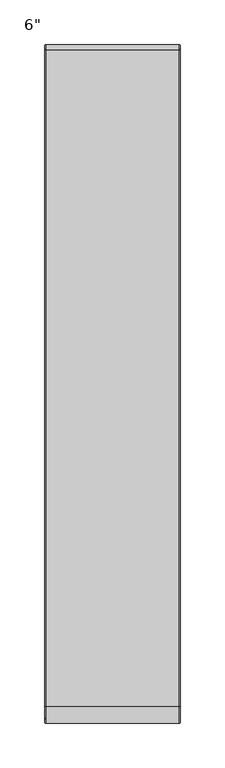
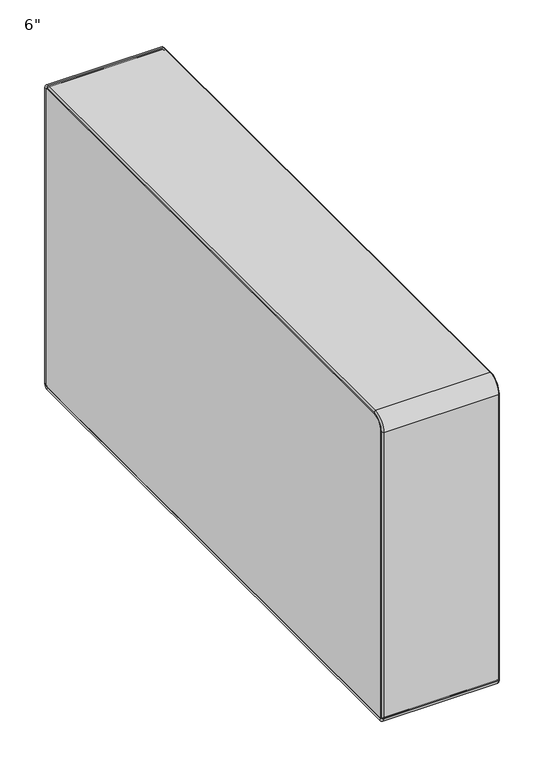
"""IFC4 building model written with IfcOpenShell, lengths in millimetres: furniture geometry."""

from ifc_helpers import new_model, si_unit, point, frame, origin, place, context, project, spatial, polyline, circle_curve, ellipse_curve, trimmed, source, transform, mapped, element, save
from ifc_brep_helpers import plane_surface, cylinder_surface, revolved_surface, advanced_brep


def furniture_aac89ebb(model_context):
    return source(origin(), model_context, "Body", "AdvancedBrep", [
        advanced_brep(
        [(-74.6125, 374.65, 749.3), (-74.6125, 374.65, 746.125), (-74.6125, -361.95, 746.125), (-74.6125, -361.95, 749.3), (74.6125, 374.65, 749.3), (74.6125, -361.95, 749.3), (74.6125, 374.65, 746.125), (74.6125, -361.95, 746.125), (-74.6125, -381.0, 730.25), (-74.6125, -377.825, 730.25), (-74.6125, -377.825, 336.6753315), (-74.6125, -381.0, 336.6753315), (74.6125, -381.0, 730.25), (74.6125, -381.0, 336.6753315), (74.6125, -377.825, 730.25), (74.6125, -377.825, 336.6753315), (-74.6125, -374.65, 330.3253315), (-74.6125, -374.65, 333.5003315), (-74.6125, 374.65, 333.5003315), (-74.6125, 374.65, 330.3253315), (74.6125, -374.65, 330.3253315), (74.6125, 374.65, 330.3253315), (74.6125, -374.65, 333.5003315), (74.6125, 374.65, 333.5003315), (-74.6125, 381.0, 336.6753315), (-74.6125, 377.825, 336.6753315), (-74.6125, 377.825, 742.95), (-74.6125, 381.0, 742.95), (74.6125, 381.0, 336.6753315), (74.6125, 381.0, 742.95), (74.6125, 377.825, 336.6753315), (74.6125, 377.825, 742.95)],
        [
            (0, 1, circle_curve(frame((-74.6125, 374.65, 747.7125), z_axis=(0.0, -1.0, 0.0), x_axis=(0.0, 0.0, -1.0)), 1.5875)),
            (1, 2),
            (2, 3, circle_curve(frame((-74.6125, -361.95, 747.7125), z_axis=(0.0, 1.0, 0.0), x_axis=(0.0, 0.0, -1.0)), 1.5875)),
            (3, 0),
            (4, 0),
            (3, 5),
            (5, 4),
            (6, 4, circle_curve(frame((74.6125, 374.65, 747.7125), z_axis=(0.0, -1.0, 0.0), x_axis=(0.0, 0.0, -1.0)), 1.5875)),
            (5, 7, circle_curve(frame((74.6125, -361.95, 747.7125), z_axis=(0.0, 1.0, 0.0), x_axis=(0.0, 0.0, -1.0)), 1.5875)),
            (7, 6),
            (8, 9, circle_curve(frame((-74.6125, -379.4125, 730.25), z_axis=(0.0, 0.0, -1.0), x_axis=(0.0, 1.0, 0.0)), 1.5875)),
            (9, 10),
            (10, 11, circle_curve(frame((-74.6125, -379.4125, 336.6753315), z_axis=(0.0, 0.0, 1.0), x_axis=(0.0, 1.0, 0.0)), 1.5875)),
            (11, 8),
            (12, 8),
            (11, 13),
            (13, 12),
            (14, 12, circle_curve(frame((74.6125, -379.4125, 730.25), z_axis=(0.0, 0.0, -1.0), x_axis=(0.0, 1.0, 0.0)), 1.5875)),
            (13, 15, circle_curve(frame((74.6125, -379.4125, 336.6753315), z_axis=(0.0, 0.0, 1.0), x_axis=(0.0, 1.0, 0.0)), 1.5875)),
            (15, 14),
            (16, 17, circle_curve(frame((-74.6125, -374.65, 331.9128315), z_axis=(0.0, 1.0, 0.0), x_axis=(0.0, 0.0, 1.0)), 1.5875)),
            (17, 18),
            (18, 19, circle_curve(frame((-74.6125, 374.65, 331.9128315), z_axis=(0.0, -1.0, 0.0), x_axis=(0.0, 0.0, 1.0)), 1.5875)),
            (19, 16),
            (20, 16),
            (19, 21),
            (21, 20),
            (22, 20, circle_curve(frame((74.6125, -374.65, 331.9128315), z_axis=(0.0, 1.0, 0.0), x_axis=(0.0, 0.0, 1.0)), 1.5875)),
            (21, 23, circle_curve(frame((74.6125, 374.65, 331.9128315), z_axis=(0.0, -1.0, 0.0), x_axis=(0.0, 0.0, 1.0)), 1.5875)),
            (23, 22),
            (24, 25, circle_curve(frame((-74.6125, 379.4125, 336.6753315), z_axis=(0.0, 0.0, 1.0), x_axis=(0.0, -1.0, 0.0)), 1.5875)),
            (25, 26),
            (26, 27, circle_curve(frame((-74.6125, 379.4125, 742.95), z_axis=(0.0, 0.0, -1.0), x_axis=(0.0, -1.0, 0.0)), 1.5875)),
            (27, 24),
            (28, 24),
            (27, 29),
            (29, 28),
            (30, 28, circle_curve(frame((74.6125, 379.4125, 336.6753315), z_axis=(0.0, 0.0, 1.0), x_axis=(0.0, -1.0, 0.0)), 1.5875)),
            (29, 31, circle_curve(frame((74.6125, 379.4125, 742.95), z_axis=(0.0, 0.0, -1.0), x_axis=(0.0, -1.0, 0.0)), 1.5875)),
            (31, 30),
            (0, 27, circle_curve(frame((-74.6125, 374.65, 742.95), z_axis=(-1.0, 0.0, 0.0), x_axis=(0.0, 1.0, 0.0)), 6.35)),
            (26, 1, circle_curve(frame((-74.6125, 374.65, 742.95), z_axis=(1.0, 0.0, 0.0), x_axis=(0.0, 1.0, 0.0)), 3.175)),
            (4, 29, circle_curve(frame((74.6125, 374.65, 742.95), z_axis=(-1.0, 0.0, 0.0), x_axis=(0.0, 1.0, 0.0)), 6.35)),
            (6, 31, circle_curve(frame((74.6125, 374.65, 742.95), z_axis=(-1.0, 0.0, 0.0), x_axis=(0.0, 1.0, 0.0)), 3.175)),
            (8, 3, circle_curve(frame((-74.6125, -361.95, 730.25), z_axis=(-1.0, 0.0, 0.0), x_axis=(0.0, 0.0, 1.0)), 19.05)),
            (2, 9, circle_curve(frame((-74.6125, -361.95, 730.25), z_axis=(1.0, 0.0, 0.0), x_axis=(0.0, 0.0, 1.0)), 15.875)),
            (12, 5, circle_curve(frame((74.6125, -361.95, 730.25), z_axis=(-1.0, 0.0, 0.0), x_axis=(0.0, 0.0, 1.0)), 19.05)),
            (14, 7, circle_curve(frame((74.6125, -361.95, 730.25), z_axis=(-1.0, 0.0, 0.0), x_axis=(0.0, 0.0, 1.0)), 15.875)),
            (16, 11, circle_curve(frame((-74.6125, -374.65, 336.6753315), z_axis=(-1.0, 0.0, 0.0), x_axis=(0.0, -1.0, 0.0)), 6.35)),
            (10, 17, circle_curve(frame((-74.6125, -374.65, 336.6753315), z_axis=(1.0, 0.0, 0.0), x_axis=(0.0, -1.0, 0.0)), 3.175)),
            (20, 13, circle_curve(frame((74.6125, -374.65, 336.6753315), z_axis=(-1.0, 0.0, 0.0), x_axis=(0.0, -1.0, 0.0)), 6.35)),
            (22, 15, circle_curve(frame((74.6125, -374.65, 336.6753315), z_axis=(-1.0, 0.0, 0.0), x_axis=(0.0, -1.0, 0.0)), 3.175)),
            (24, 19, circle_curve(frame((-74.6125, 374.65, 336.6753315), z_axis=(-1.0, 0.0, 0.0), x_axis=(0.0, 0.0, -1.0)), 6.35)),
            (18, 25, circle_curve(frame((-74.6125, 374.65, 336.6753315), z_axis=(1.0, 0.0, 0.0), x_axis=(0.0, 0.0, -1.0)), 3.175)),
            (28, 21, circle_curve(frame((74.6125, 374.65, 336.6753315), z_axis=(-1.0, 0.0, 0.0), x_axis=(0.0, 0.0, -1.0)), 6.35)),
            (30, 23, circle_curve(frame((74.6125, 374.65, 336.6753315), z_axis=(-1.0, 0.0, 0.0), x_axis=(0.0, 0.0, -1.0)), 3.175)),
            (2, 7),
            (14, 9),
            (15, 10),
            (22, 17),
            (23, 18),
            (30, 25),
            (31, 26),
            (6, 1),
        ],
        [
            cylinder_surface(frame((-74.6125, 374.65, 747.7125), z_axis=(0.0, 1.0, 0.0), x_axis=(0.0, 0.0, -1.0)), 1.5875),
            plane_surface(frame((-74.6125, 374.65, 749.3), z_axis=(0.0, 0.0, 1.0), x_axis=(0.0, -1.0, 0.0))),
            cylinder_surface(frame((74.6125, 374.65, 747.7125), z_axis=(0.0, 1.0, 0.0), x_axis=(0.0, 0.0, -1.0)), 1.5875),
            cylinder_surface(frame((-74.6125, -379.4125, 730.25), z_axis=(0.0, 0.0, 1.0), x_axis=(0.0, 1.0, 0.0)), 1.5875),
            plane_surface(frame((-74.6125, -381.0, 730.25), z_axis=(0.0, -1.0, 0.0), x_axis=(0.0, 0.0, -1.0))),
            cylinder_surface(frame((74.6125, -379.4125, 730.25), z_axis=(0.0, 0.0, 1.0), x_axis=(0.0, 1.0, 0.0)), 1.5875),
            cylinder_surface(frame((-74.6125, -374.65, 331.9128315), z_axis=(0.0, -1.0, 0.0), x_axis=(0.0, 0.0, 1.0)), 1.5875),
            plane_surface(frame((-74.6125, -374.65, 330.3253315), z_axis=(0.0, 0.0, -1.0), x_axis=(0.0, 1.0, 0.0))),
            cylinder_surface(frame((74.6125, -374.65, 331.9128315), z_axis=(0.0, -1.0, 0.0), x_axis=(0.0, 0.0, 1.0)), 1.5875),
            cylinder_surface(frame((-74.6125, 379.4125, 336.6753315), z_axis=(0.0, 0.0, -1.0), x_axis=(0.0, -1.0, 0.0)), 1.5875),
            plane_surface(frame((-74.6125, 381.0, 336.6753315), z_axis=(0.0, 1.0, 0.0), x_axis=(0.0, 0.0, 1.0))),
            cylinder_surface(frame((74.6125, 379.4125, 336.6753315), z_axis=(0.0, 0.0, -1.0), x_axis=(0.0, -1.0, 0.0)), 1.5875),
            revolved_surface(trimmed(ellipse_curve(frame((-74.6125, 379.4125, 742.95), z_axis=(0.0, 0.0, -1.0), x_axis=(0.0, -1.0, 0.0)), 1.5875, 1.5875), [point((-74.6125, 377.825, 742.95))], [point((-74.6125, 381.0, 742.95))], True, "CARTESIAN"), (0.0, 374.65, 742.95), (1.0, 0.0, 0.0)),
            cylinder_surface(frame((0.0, 374.65, 742.95), z_axis=(1.0, 0.0, 0.0), x_axis=(0.0, 1.0, 0.0)), 6.35),
            revolved_surface(trimmed(ellipse_curve(frame((74.6125, 379.4125, 742.95), z_axis=(0.0, 0.0, -1.0), x_axis=(0.0, -1.0, 0.0)), 1.5875, 1.5875), [point((74.6125, 381.0, 742.95))], [point((74.6125, 377.825, 742.95))], True, "CARTESIAN"), (0.0, 374.65, 742.95), (1.0, 0.0, 0.0)),
            revolved_surface(trimmed(ellipse_curve(frame((-74.6125, -361.95, 747.7125), z_axis=(0.0, 1.0, 0.0), x_axis=(0.0, 0.0, -1.0)), 1.5875, 1.5875), [point((-74.6125, -361.95, 746.125))], [point((-74.6125, -361.95, 749.3))], True, "CARTESIAN"), (0.0, -361.95, 730.25), (1.0, 0.0, 0.0)),
            cylinder_surface(frame((0.0, -361.95, 730.25), z_axis=(1.0, 0.0, 0.0), x_axis=(0.0, 0.0, 1.0)), 19.05),
            revolved_surface(trimmed(ellipse_curve(frame((74.6125, -361.95, 747.7125), z_axis=(0.0, 1.0, 0.0), x_axis=(0.0, 0.0, -1.0)), 1.5875, 1.5875), [point((74.6125, -361.95, 749.3))], [point((74.6125, -361.95, 746.125))], True, "CARTESIAN"), (0.0, -361.95, 730.25), (1.0, 0.0, 0.0)),
            revolved_surface(trimmed(ellipse_curve(frame((-74.6125, -379.4125, 336.6753315), z_axis=(0.0, 0.0, 1.0), x_axis=(0.0, 1.0, 0.0)), 1.5875, 1.5875), [point((-74.6125, -377.825, 336.6753315))], [point((-74.6125, -381.0, 336.6753315))], True, "CARTESIAN"), (0.0, -374.65, 336.6753315), (1.0, 0.0, 0.0)),
            cylinder_surface(frame((0.0, -374.65, 336.6753315), z_axis=(1.0, 0.0, 0.0), x_axis=(0.0, -1.0, 0.0)), 6.35),
            revolved_surface(trimmed(ellipse_curve(frame((74.6125, -379.4125, 336.6753315), z_axis=(0.0, 0.0, 1.0), x_axis=(0.0, 1.0, 0.0)), 1.5875, 1.5875), [point((74.6125, -381.0, 336.6753315))], [point((74.6125, -377.825, 336.6753315))], True, "CARTESIAN"), (0.0, -374.65, 336.6753315), (1.0, 0.0, 0.0)),
            revolved_surface(trimmed(ellipse_curve(frame((-74.6125, 374.65, 331.9128315), z_axis=(0.0, -1.0, 0.0), x_axis=(0.0, 0.0, 1.0)), 1.5875, 1.5875), [point((-74.6125, 374.65, 333.5003315))], [point((-74.6125, 374.65, 330.3253315))], True, "CARTESIAN"), (0.0, 374.65, 336.6753315), (1.0, 0.0, 0.0)),
            cylinder_surface(frame((0.0, 374.65, 336.6753315), z_axis=(1.0, 0.0, 0.0), x_axis=(0.0, 0.0, -1.0)), 6.35),
            revolved_surface(trimmed(ellipse_curve(frame((74.6125, 374.65, 331.9128315), z_axis=(0.0, -1.0, 0.0), x_axis=(0.0, 0.0, 1.0)), 1.5875, 1.5875), [point((74.6125, 374.65, 330.3253315))], [point((74.6125, 374.65, 333.5003315))], True, "CARTESIAN"), (0.0, 374.65, 336.6753315), (1.0, 0.0, 0.0)),
            revolved_surface(polyline([(74.6125, -361.95, 746.125), (-74.6125, -361.95, 746.125)]), (0.0, -361.95, 730.25), (1.0, 0.0, 0.0)),
            plane_surface(frame((74.6125, -377.825, 730.25), z_axis=(0.0, 1.0, 0.0), x_axis=(0.0, 0.0, -1.0))),
            revolved_surface(polyline([(74.6125, -377.825, 336.6753315), (-74.6125, -377.825, 336.6753315)]), (0.0, -374.65, 336.6753315), (1.0, 0.0, 0.0)),
            plane_surface(frame((74.6125, -374.65, 333.5003315), z_axis=(0.0, 0.0, 1.0), x_axis=(0.0, 1.0, 0.0))),
            revolved_surface(polyline([(74.6125, 374.65, 333.5003315), (-74.6125, 374.65, 333.5003315)]), (0.0, 374.65, 336.6753315), (1.0, 0.0, 0.0)),
            plane_surface(frame((74.6125, 377.825, 336.6753315), z_axis=(0.0, -1.0, 0.0), x_axis=(0.0, 0.0, 1.0))),
            revolved_surface(polyline([(74.6125, 377.825, 742.95), (-74.6125, 377.825, 742.95)]), (0.0, 374.65, 742.95), (1.0, 0.0, 0.0)),
            plane_surface(frame((74.6125, 374.65, 746.125), z_axis=(0.0, 0.0, -1.0), x_axis=(0.0, -1.0, 0.0))),
        ],
        [
            (0, [[1, 2, 3, 4]]),
            (1, [[5, -4, 6, 7]]),
            (2, [[8, -7, 9, 10]]),
            (3, [[11, 12, 13, 14]]),
            (4, [[15, -14, 16, 17]]),
            (5, [[18, -17, 19, 20]]),
            (6, [[21, 22, 23, 24]]),
            (7, [[25, -24, 26, 27]]),
            (8, [[28, -27, 29, 30]]),
            (9, [[31, 32, 33, 34]]),
            (10, [[35, -34, 36, 37]]),
            (11, [[38, -37, 39, 40]]),
            (12, [[41, -33, 42, -1]]),
            (13, [[43, -36, -41, -5]]),
            (14, [[44, -39, -43, -8]]),
            (15, [[45, -3, 46, -11]]),
            (16, [[47, -6, -45, -15]]),
            (17, [[48, -9, -47, -18]]),
            (18, [[49, -13, 50, -21]]),
            (19, [[51, -16, -49, -25]]),
            (20, [[52, -19, -51, -28]]),
            (21, [[53, -23, 54, -31]]),
            (22, [[55, -26, -53, -35]]),
            (23, [[56, -29, -55, -38]]),
            (24, [[-46, 57, -48, 58]]),
            (25, [[-58, -20, 59, -12]]),
            (26, [[-50, -59, -52, 60]]),
            (27, [[-60, -30, 61, -22]]),
            (28, [[-54, -61, -56, 62]]),
            (29, [[-62, -40, 63, -32]]),
            (30, [[-42, -63, -44, 64]]),
            (31, [[-64, -10, -57, -2]]),
        ],
    ),
        advanced_brep(
        [(76.2, 374.65, 744.5375), (76.2, -361.95, 744.5375), (76.2, -376.2375, 730.25), (76.2, -376.2375, 336.6753315), (76.2, -374.65, 335.0878315), (76.2, 374.65, 335.0878315), (76.2, 376.2375, 336.6753315), (76.2, 376.2375, 742.95), (-76.2, -361.95, 744.5375), (-76.2, 374.65, 744.5375), (-76.2, 376.2375, 742.95), (-76.2, 376.2375, 336.6753315), (-76.2, 374.65, 335.0878315), (-76.2, -374.65, 335.0878315), (-76.2, -376.2375, 336.6753315), (-76.2, -376.2375, 730.25), (74.6125, 374.65, 746.125), (74.6125, -361.95, 746.125), (-74.6125, 374.65, 746.125), (-74.6125, -361.95, 746.125), (74.6125, -377.825, 730.25), (74.6125, -377.825, 336.6753315), (-74.6125, -377.825, 730.25), (-74.6125, -377.825, 336.6753315), (74.6125, -374.65, 333.5003315), (74.6125, 374.65, 333.5003315), (-74.6125, -374.65, 333.5003315), (-74.6125, 374.65, 333.5003315), (74.6125, 377.825, 336.6753315), (74.6125, 377.825, 742.95), (-74.6125, 377.825, 336.6753315), (-74.6125, 377.825, 742.95)],
        [
            (0, 1),
            (1, 2, circle_curve(frame((76.2, -361.95, 730.25), z_axis=(1.0, 0.0, 0.0), x_axis=(0.0, 0.0, 1.0)), 14.2875)),
            (2, 3),
            (3, 4, circle_curve(frame((76.2, -374.65, 336.6753315), z_axis=(1.0, 0.0, 0.0), x_axis=(0.0, -1.0, 0.0)), 1.5875)),
            (4, 5),
            (5, 6, circle_curve(frame((76.2, 374.65, 336.6753315), z_axis=(1.0, 0.0, 0.0), x_axis=(0.0, 0.0, -1.0)), 1.5875)),
            (6, 7),
            (7, 0, circle_curve(frame((76.2, 374.65, 742.95), z_axis=(1.0, 0.0, 0.0), x_axis=(0.0, 1.0, 0.0)), 1.5875)),
            (8, 9),
            (9, 10, circle_curve(frame((-76.2, 374.65, 742.95), z_axis=(-1.0, 0.0, 0.0), x_axis=(0.0, 1.0, 0.0)), 1.5875)),
            (10, 11),
            (11, 12, circle_curve(frame((-76.2, 374.65, 336.6753315), z_axis=(-1.0, 0.0, 0.0), x_axis=(0.0, 0.0, -1.0)), 1.5875)),
            (12, 13),
            (13, 14, circle_curve(frame((-76.2, -374.65, 336.6753315), z_axis=(-1.0, 0.0, 0.0), x_axis=(0.0, -1.0, 0.0)), 1.5875)),
            (14, 15),
            (15, 8, circle_curve(frame((-76.2, -361.95, 730.25), z_axis=(-1.0, 0.0, 0.0), x_axis=(0.0, 0.0, 1.0)), 14.2875)),
            (0, 16, circle_curve(frame((74.6125, 374.65, 744.5375), z_axis=(0.0, -1.0, 0.0), x_axis=(0.0, 0.0, -1.0)), 1.5875)),
            (16, 17),
            (17, 1, circle_curve(frame((74.6125, -361.95, 744.5375), z_axis=(0.0, 1.0, 0.0), x_axis=(0.0, 0.0, -1.0)), 1.5875)),
            (18, 9, circle_curve(frame((-74.6125, 374.65, 744.5375), z_axis=(0.0, -1.0, 0.0), x_axis=(0.0, 0.0, -1.0)), 1.5875)),
            (8, 19, circle_curve(frame((-74.6125, -361.95, 744.5375), z_axis=(0.0, 1.0, 0.0), x_axis=(0.0, 0.0, -1.0)), 1.5875)),
            (19, 18),
            (2, 20, circle_curve(frame((74.6125, -376.2375, 730.25), z_axis=(0.0, 0.0, -1.0), x_axis=(0.0, 1.0, 0.0)), 1.5875)),
            (20, 21),
            (21, 3, circle_curve(frame((74.6125, -376.2375, 336.6753315), z_axis=(0.0, 0.0, 1.0), x_axis=(0.0, 1.0, 0.0)), 1.5875)),
            (22, 15, circle_curve(frame((-74.6125, -376.2375, 730.25), z_axis=(0.0, 0.0, -1.0), x_axis=(0.0, 1.0, 0.0)), 1.5875)),
            (14, 23, circle_curve(frame((-74.6125, -376.2375, 336.6753315), z_axis=(0.0, 0.0, 1.0), x_axis=(0.0, 1.0, 0.0)), 1.5875)),
            (23, 22),
            (4, 24, circle_curve(frame((74.6125, -374.65, 335.0878315), z_axis=(0.0, 1.0, 0.0), x_axis=(0.0, 0.0, 1.0)), 1.5875)),
            (24, 25),
            (25, 5, circle_curve(frame((74.6125, 374.65, 335.0878315), z_axis=(0.0, -1.0, 0.0), x_axis=(0.0, 0.0, 1.0)), 1.5875)),
            (26, 13, circle_curve(frame((-74.6125, -374.65, 335.0878315), z_axis=(0.0, 1.0, 0.0), x_axis=(0.0, 0.0, 1.0)), 1.5875)),
            (12, 27, circle_curve(frame((-74.6125, 374.65, 335.0878315), z_axis=(0.0, -1.0, 0.0), x_axis=(0.0, 0.0, 1.0)), 1.5875)),
            (27, 26),
            (6, 28, circle_curve(frame((74.6125, 376.2375, 336.6753315), z_axis=(0.0, 0.0, 1.0), x_axis=(0.0, -1.0, 0.0)), 1.5875)),
            (28, 29),
            (29, 7, circle_curve(frame((74.6125, 376.2375, 742.95), z_axis=(0.0, 0.0, -1.0), x_axis=(0.0, -1.0, 0.0)), 1.5875)),
            (30, 11, circle_curve(frame((-74.6125, 376.2375, 336.6753315), z_axis=(0.0, 0.0, 1.0), x_axis=(0.0, -1.0, 0.0)), 1.5875)),
            (10, 31, circle_curve(frame((-74.6125, 376.2375, 742.95), z_axis=(0.0, 0.0, -1.0), x_axis=(0.0, -1.0, 0.0)), 1.5875)),
            (31, 30),
            (29, 16, circle_curve(frame((74.6125, 374.65, 742.95), z_axis=(1.0, 0.0, 0.0), x_axis=(0.0, 1.0, 0.0)), 3.175)),
            (18, 31, circle_curve(frame((-74.6125, 374.65, 742.95), z_axis=(-1.0, 0.0, 0.0), x_axis=(0.0, 1.0, 0.0)), 3.175)),
            (17, 20, circle_curve(frame((74.6125, -361.95, 730.25), z_axis=(1.0, 0.0, 0.0), x_axis=(0.0, 0.0, 1.0)), 15.875)),
            (22, 19, circle_curve(frame((-74.6125, -361.95, 730.25), z_axis=(-1.0, 0.0, 0.0), x_axis=(0.0, 0.0, 1.0)), 15.875)),
            (21, 24, circle_curve(frame((74.6125, -374.65, 336.6753315), z_axis=(1.0, 0.0, 0.0), x_axis=(0.0, -1.0, 0.0)), 3.175)),
            (26, 23, circle_curve(frame((-74.6125, -374.65, 336.6753315), z_axis=(-1.0, 0.0, 0.0), x_axis=(0.0, -1.0, 0.0)), 3.175)),
            (25, 28, circle_curve(frame((74.6125, 374.65, 336.6753315), z_axis=(1.0, 0.0, 0.0), x_axis=(0.0, 0.0, -1.0)), 3.175)),
            (30, 27, circle_curve(frame((-74.6125, 374.65, 336.6753315), z_axis=(-1.0, 0.0, 0.0), x_axis=(0.0, 0.0, -1.0)), 3.175)),
            (17, 19),
            (22, 20),
            (23, 21),
            (26, 24),
            (27, 25),
            (30, 28),
            (31, 29),
            (18, 16),
        ],
        [
            plane_surface(frame((76.2, -348.45625, 730.25), z_axis=(1.0, 0.0, 0.0), x_axis=(0.0, 0.0, 1.0))),
            plane_surface(frame((-76.2, -348.45625, 730.25), z_axis=(-1.0, 0.0, 0.0), x_axis=(0.0, 0.0, -1.0))),
            cylinder_surface(frame((74.6125, 374.65, 744.5375), z_axis=(0.0, 1.0, 0.0), x_axis=(0.0, 0.0, -1.0)), 1.5875),
            cylinder_surface(frame((-74.6125, 374.65, 744.5375), z_axis=(0.0, 1.0, 0.0), x_axis=(0.0, 0.0, -1.0)), 1.5875),
            cylinder_surface(frame((74.6125, -376.2375, 730.25), z_axis=(0.0, 0.0, 1.0), x_axis=(0.0, 1.0, 0.0)), 1.5875),
            cylinder_surface(frame((-74.6125, -376.2375, 730.25), z_axis=(0.0, 0.0, 1.0), x_axis=(0.0, 1.0, 0.0)), 1.5875),
            cylinder_surface(frame((74.6125, -374.65, 335.0878315), z_axis=(0.0, -1.0, 0.0), x_axis=(0.0, 0.0, 1.0)), 1.5875),
            cylinder_surface(frame((-74.6125, -374.65, 335.0878315), z_axis=(0.0, -1.0, 0.0), x_axis=(0.0, 0.0, 1.0)), 1.5875),
            cylinder_surface(frame((74.6125, 376.2375, 336.6753315), z_axis=(0.0, 0.0, -1.0), x_axis=(0.0, -1.0, 0.0)), 1.5875),
            cylinder_surface(frame((-74.6125, 376.2375, 336.6753315), z_axis=(0.0, 0.0, -1.0), x_axis=(0.0, -1.0, 0.0)), 1.5875),
            revolved_surface(trimmed(ellipse_curve(frame((74.6125, 376.2375, 742.95), z_axis=(0.0, 0.0, -1.0), x_axis=(0.0, -1.0, 0.0)), 1.5875, 1.5875), [point((74.6125, 377.825, 742.95))], [point((76.2, 376.2375, 742.95))], True, "CARTESIAN"), (0.0, 374.65, 742.95), (1.0, 0.0, 0.0)),
            revolved_surface(trimmed(ellipse_curve(frame((-74.6125, 376.2375, 742.95), z_axis=(0.0, 0.0, -1.0), x_axis=(0.0, -1.0, 0.0)), 1.5875, 1.5875), [point((-76.2, 376.2375, 742.95))], [point((-74.6125, 377.825, 742.95))], True, "CARTESIAN"), (0.0, 374.65, 742.95), (1.0, 0.0, 0.0)),
            revolved_surface(trimmed(ellipse_curve(frame((74.6125, -361.95, 744.5375), z_axis=(0.0, 1.0, 0.0), x_axis=(0.0, 0.0, -1.0)), 1.5875, 1.5875), [point((74.6125, -361.95, 746.125))], [point((76.2, -361.95, 744.5375))], True, "CARTESIAN"), (0.0, -361.95, 730.25), (1.0, 0.0, 0.0)),
            revolved_surface(trimmed(ellipse_curve(frame((-74.6125, -361.95, 744.5375), z_axis=(0.0, 1.0, 0.0), x_axis=(0.0, 0.0, -1.0)), 1.5875, 1.5875), [point((-76.2, -361.95, 744.5375))], [point((-74.6125, -361.95, 746.125))], True, "CARTESIAN"), (0.0, -361.95, 730.25), (1.0, 0.0, 0.0)),
            revolved_surface(trimmed(ellipse_curve(frame((74.6125, -376.2375, 336.6753315), z_axis=(0.0, 0.0, 1.0), x_axis=(0.0, 1.0, 0.0)), 1.5875, 1.5875), [point((74.6125, -377.825, 336.6753315))], [point((76.2, -376.2375, 336.6753315))], True, "CARTESIAN"), (0.0, -374.65, 336.6753315), (1.0, 0.0, 0.0)),
            revolved_surface(trimmed(ellipse_curve(frame((-74.6125, -376.2375, 336.6753315), z_axis=(0.0, 0.0, 1.0), x_axis=(0.0, 1.0, 0.0)), 1.5875, 1.5875), [point((-76.2, -376.2375, 336.6753315))], [point((-74.6125, -377.825, 336.6753315))], True, "CARTESIAN"), (0.0, -374.65, 336.6753315), (1.0, 0.0, 0.0)),
            revolved_surface(trimmed(ellipse_curve(frame((74.6125, 374.65, 335.0878315), z_axis=(0.0, -1.0, 0.0), x_axis=(0.0, 0.0, 1.0)), 1.5875, 1.5875), [point((74.6125, 374.65, 333.5003315))], [point((76.2, 374.65, 335.0878315))], True, "CARTESIAN"), (0.0, 374.65, 336.6753315), (1.0, 0.0, 0.0)),
            revolved_surface(trimmed(ellipse_curve(frame((-74.6125, 374.65, 335.0878315), z_axis=(0.0, -1.0, 0.0), x_axis=(0.0, 0.0, 1.0)), 1.5875, 1.5875), [point((-76.2, 374.65, 335.0878315))], [point((-74.6125, 374.65, 333.5003315))], True, "CARTESIAN"), (0.0, 374.65, 336.6753315), (1.0, 0.0, 0.0)),
            cylinder_surface(frame((0.0, -361.95, 730.25), z_axis=(1.0, 0.0, 0.0), x_axis=(0.0, 0.0, 1.0)), 15.875),
            plane_surface(frame((-74.6125, -377.825, 730.25), z_axis=(0.0, -1.0, 0.0), x_axis=(0.0, 0.0, -1.0))),
            cylinder_surface(frame((0.0, -374.65, 336.6753315), z_axis=(1.0, 0.0, 0.0), x_axis=(0.0, -1.0, 0.0)), 3.175),
            plane_surface(frame((-74.6125, -374.65, 333.5003315), z_axis=(0.0, 0.0, -1.0), x_axis=(0.0, 1.0, 0.0))),
            cylinder_surface(frame((0.0, 374.65, 336.6753315), z_axis=(1.0, 0.0, 0.0), x_axis=(0.0, 0.0, -1.0)), 3.175),
            plane_surface(frame((-74.6125, 377.825, 336.6753315), z_axis=(0.0, 1.0, 0.0), x_axis=(0.0, 0.0, 1.0))),
            cylinder_surface(frame((0.0, 374.65, 742.95), z_axis=(1.0, 0.0, 0.0), x_axis=(0.0, 1.0, 0.0)), 3.175),
            plane_surface(frame((-74.6125, 374.65, 746.125), z_axis=(0.0, 0.0, 1.0), x_axis=(0.0, -1.0, 0.0))),
        ],
        [
            (0, [[1, 2, 3, 4, 5, 6, 7, 8]]),
            (1, [[9, 10, 11, 12, 13, 14, 15, 16]]),
            (2, [[17, 18, 19, -1]]),
            (3, [[20, -9, 21, 22]]),
            (4, [[23, 24, 25, -3]]),
            (5, [[26, -15, 27, 28]]),
            (6, [[29, 30, 31, -5]]),
            (7, [[32, -13, 33, 34]]),
            (8, [[35, 36, 37, -7]]),
            (9, [[38, -11, 39, 40]]),
            (10, [[-17, -8, -37, 41]]),
            (11, [[-20, 42, -39, -10]]),
            (12, [[-19, 43, -23, -2]]),
            (13, [[-21, -16, -26, 44]]),
            (14, [[-25, 45, -29, -4]]),
            (15, [[-27, -14, -32, 46]]),
            (16, [[-31, 47, -35, -6]]),
            (17, [[-33, -12, -38, 48]]),
            (18, [[-43, 49, -44, 50]]),
            (19, [[-24, -50, -28, 51]]),
            (20, [[-45, -51, -46, 52]]),
            (21, [[-30, -52, -34, 53]]),
            (22, [[-47, -53, -48, 54]]),
            (23, [[-36, -54, -40, 55]]),
            (24, [[-41, -55, -42, 56]]),
            (25, [[-18, -56, -22, -49]]),
        ],
    ),
    ])


if __name__ == "__main__":
    model = new_model("IFC4")
    model_context = context("Model", 3, world=origin())
    ifc_project = project(units=[si_unit("LENGTHUNIT", "METRE", prefix="MILLI")], contexts=[model_context])
    site = spatial("IfcSite", under=ifc_project)
    building = spatial("IfcBuilding", under=site)
    placement = place(None, origin())
    furniture_shape = furniture_aac89ebb(model_context)
    element("IfcFurniture", 1, ObjectType="Stylex - Free Address - Arm : 6\"", at=placement, inside=building, context=model_context, shape_type="MappedRepresentation", body=[
        mapped(furniture_shape, transform((0.0, 0.0, 0.0), x_axis=(1.0, 0.0, 0.0), y_axis=(0.0, 1.0, 0.0), z_axis=(0.0, 0.0, 1.0))),
    ])
    save(model, "model.ifc")
